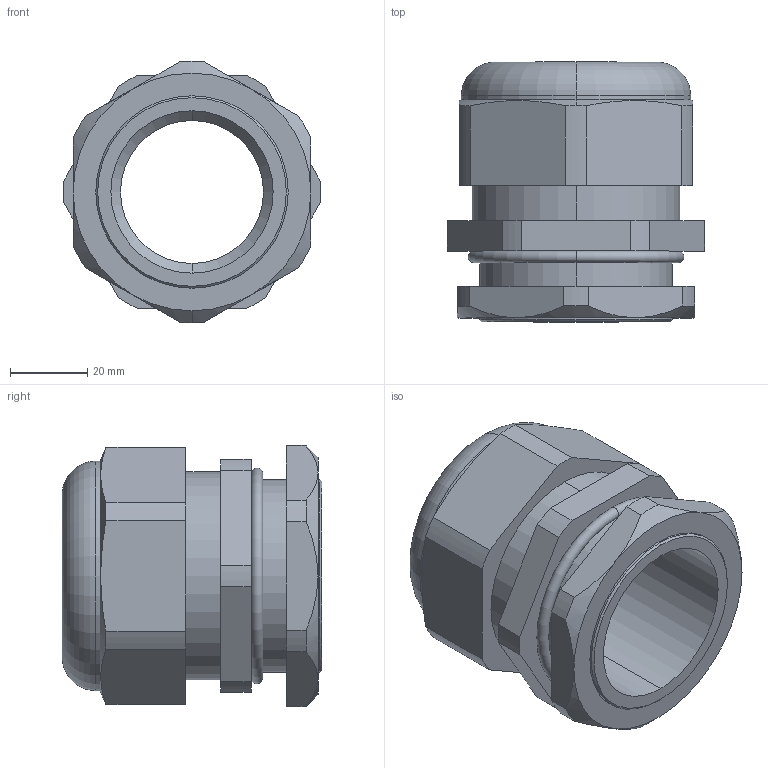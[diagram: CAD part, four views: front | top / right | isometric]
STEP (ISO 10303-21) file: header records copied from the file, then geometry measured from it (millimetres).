
FILE_DESCRIPTION (( 'STEP AP203' ), '1' );
FILE_NAME ('CH-M50.STEP', '2018-02-07T14:42:42', ( '' ), ( '' ), 'SwSTEP 2.0', 'SolidWorks 2012', '' );
FILE_SCHEMA (( 'CONFIG_CONTROL_DESIGN' ));
Length unit declared in the file: millimetre
Products named in the file (1): CH-M50
Bounding box: 66.57 x 67.2 x 67.58 mm (x, y, z)
Volume: 101336 mm3; surface area: 28923.7 mm2
Topology: 1 solids, 1 shells, 78 faces, 189 edges, 118 vertices
Faces by surface type: cylinder 34, plane 25, cone 15, torus 4
Entity records: 2494 total; most frequent: CARTESIAN_POINT 548, DIRECTION 415, ORIENTED_EDGE 378, EDGE_CURVE 189, AXIS2_PLACEMENT_3D 165, VERTEX_POINT 118, CIRCLE 86, VECTOR 85
